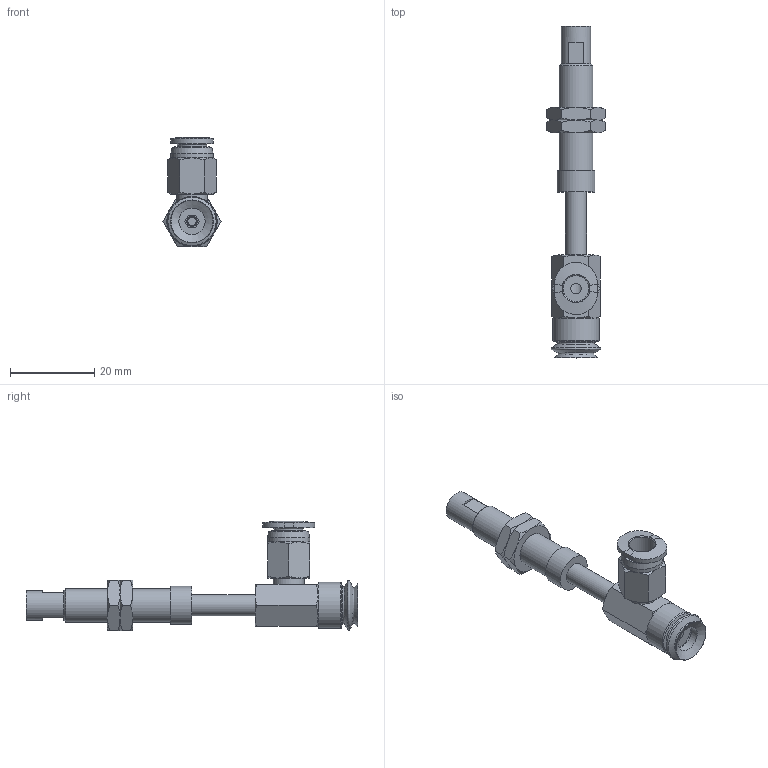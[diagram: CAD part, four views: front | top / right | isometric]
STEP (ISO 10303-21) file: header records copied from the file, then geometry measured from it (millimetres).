
FILE_DESCRIPTION(('STEP AP203'),'1');
FILE_NAME('-O.stp','2025-04-24T00:43:35',(' '),(' '),'Spatial InterOp 3D',' ',' ');
FILE_SCHEMA(('CONFIG_CONTROL_DESIGN'));
Length unit declared in the file: millimetre
Products named in the file (8): BNABPJYS-10-15-※-O; Adapter-10-NAPJ; CONNECTOR_S-10-15; NUT-NAPJ-10-15-s; NAPJTS-10-15-FBODY; NAPJTS-10-15-MBODY; BPJG-10-※; PC-C_06-M5
Assembly tree (8 placements, depth 2):
  BNABPJYS-10-15-※-O
    Adapter-10-NAPJ
    CONNECTOR_S-10-15
    NUT-NAPJ-10-15-s  x2
    NAPJTS-10-15-FBODY
    NAPJTS-10-15-MBODY
    BPJG-10-※
    PC-C_06-M5
Bounding box: 13.86 x 79 x 25.98 mm (x, y, z)
Volume: 4372.9 mm3; surface area: 6462.2 mm2
Topology: 7 solids, 10 shells, 187 faces, 390 edges, 237 vertices
Faces by surface type: plane 74, cone 69, cylinder 28, torus 9, bspline 4, revolution 3
Full cylindrical faces by diameter (mm): 2 x1, 2.5 x1, 4 x2, 4.134 x3, 4.6 x1, 5 x5, 6.266 x1, 7 x2, 7.188 x2, 7.4 x1, 7.8 x1, 8 x2, 8.2 x1, 9 x1, 10 x1, 11 x1
Entity records: 4798 total; most frequent: CARTESIAN_POINT 1282, DIRECTION 653, ORIENTED_EDGE 546, AXIS2_PLACEMENT_3D 288, EDGE_CURVE 275, EDGE_LOOP 248, VERTEX_POINT 197, FACE_OUTER_BOUND 138
